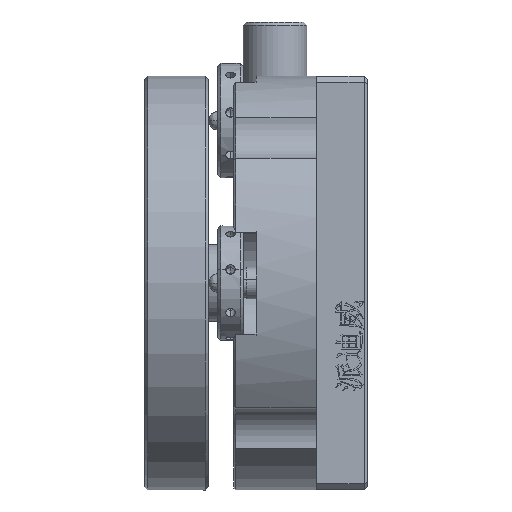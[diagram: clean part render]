
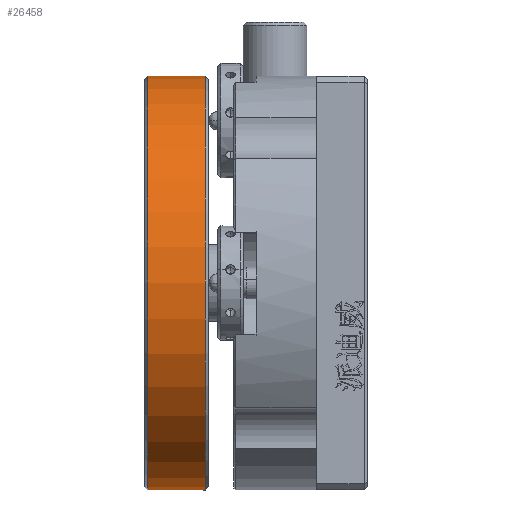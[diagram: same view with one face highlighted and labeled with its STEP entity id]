
A CAD part, left-side view. The second image highlights one B-rep face of the part: STEP entity #26458.
In plain terms, the highlighted cylindrical face has radius 32.5 mm (diameter 65 mm), a partial arc.
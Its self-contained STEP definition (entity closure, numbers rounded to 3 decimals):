
#1372 = VERTEX_POINT ( 'NONE', #21757 ) ;
#2008 = DIRECTION ( 'NONE',  ( 0., 1., 0. ) ) ;
#2183 = VECTOR ( 'NONE', #2008, 1000. ) ;
#2538 = ORIENTED_EDGE ( 'NONE', *, *, #26431, .F. ) ;
#3404 = CIRCLE ( 'NONE', #19560, 32.5 ) ;
#3801 = CARTESIAN_POINT ( 'NONE',  ( 8.565, 51.992, 61.07 ) ) ;
#3992 = LINE ( 'NONE', #13245, #8240 ) ;
#4526 = CARTESIAN_POINT ( 'NONE',  ( 8.565, 42.992, 93.57 ) ) ;
#4598 = ORIENTED_EDGE ( 'NONE', *, *, #22676, .T. ) ;
#5014 = ORIENTED_EDGE ( 'NONE', *, *, #12493, .F. ) ;
#6510 = CARTESIAN_POINT ( 'NONE',  ( 8.565, 42.492, 61.07 ) ) ;
#7103 = CARTESIAN_POINT ( 'NONE',  ( 8.565, 51.992, 93.57 ) ) ;
#7775 = VERTEX_POINT ( 'NONE', #14664 ) ;
#8240 = VECTOR ( 'NONE', #16018, 1000. ) ;
#8880 = CARTESIAN_POINT ( 'NONE',  ( 8.565, 42.492, 93.57 ) ) ;
#9358 = EDGE_LOOP ( 'NONE', ( #32103, #4598, #2538, #5014 ) ) ;
#10417 = CARTESIAN_POINT ( 'NONE',  ( 8.565, 42.992, 61.07 ) ) ;
#11046 = AXIS2_PLACEMENT_3D ( 'NONE', #3801, #31102, #20547 ) ;
#12493 = EDGE_CURVE ( 'NONE', #1372, #7775, #3992, .T. ) ;
#13245 = CARTESIAN_POINT ( 'NONE',  ( 8.565, 42.492, 28.57 ) ) ;
#14664 = CARTESIAN_POINT ( 'NONE',  ( 8.565, 51.992, 28.57 ) ) ;
#16018 = DIRECTION ( 'NONE',  ( 0., 1., 0. ) ) ;
#16300 = LINE ( 'NONE', #8880, #2183 ) ;
#17050 = CYLINDRICAL_SURFACE ( 'NONE', #22668, 32.5 ) ;
#19560 = AXIS2_PLACEMENT_3D ( 'NONE', #10417, #29217, #29095 ) ;
#20547 = DIRECTION ( 'NONE',  ( 0., 0., 1. ) ) ;
#21757 = CARTESIAN_POINT ( 'NONE',  ( 8.565, 42.992, 28.57 ) ) ;
#22668 = AXIS2_PLACEMENT_3D ( 'NONE', #6510, #28489, #25542 ) ;
#22676 = EDGE_CURVE ( 'NONE', #22830, #29464, #16300, .T. ) ;
#22830 = VERTEX_POINT ( 'NONE', #4526 ) ;
#23212 = EDGE_CURVE ( 'NONE', #1372, #22830, #3404, .T. ) ;
#25542 = DIRECTION ( 'NONE',  ( 0., 0., -1. ) ) ;
#26431 = EDGE_CURVE ( 'NONE', #7775, #29464, #27663, .T. ) ;
#26458 = ADVANCED_FACE ( 'NONE', ( #28890 ), #17050, .T. ) ;
#27663 = CIRCLE ( 'NONE', #11046, 32.5 ) ;
#28489 = DIRECTION ( 'NONE',  ( 0., 1., 0. ) ) ;
#28890 = FACE_OUTER_BOUND ( 'NONE', #9358, .T. ) ;
#29095 = DIRECTION ( 'NONE',  ( 0., 0., -1. ) ) ;
#29217 = DIRECTION ( 'NONE',  ( 0., 1., 0. ) ) ;
#29464 = VERTEX_POINT ( 'NONE', #7103 ) ;
#31102 = DIRECTION ( 'NONE',  ( 0., 1., 0. ) ) ;
#32103 = ORIENTED_EDGE ( 'NONE', *, *, #23212, .T. ) ;
